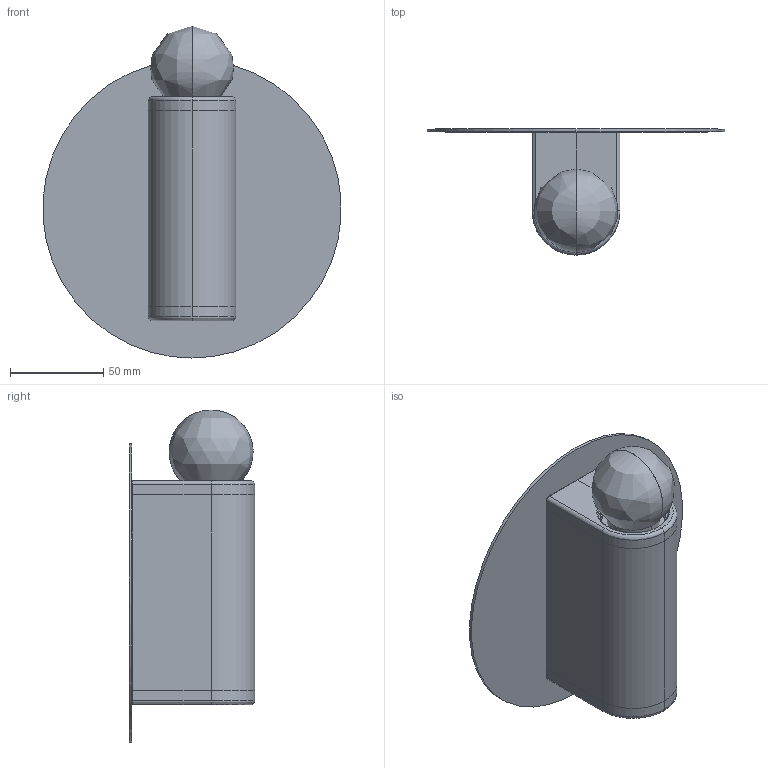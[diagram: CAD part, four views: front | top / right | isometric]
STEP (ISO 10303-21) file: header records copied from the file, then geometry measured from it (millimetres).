
FILE_DESCRIPTION(/* description */ (''),/* implementation_level */ '2;1');
FILE_NAME(/* name */ 'MA_White Porcelain Series D3_120V_2017',/* time_stamp */ '2020-12-02T12:03:51+00:00',/* author */ (''),/* organization */ (''),/* preprocessor_version */ 'ST-DEVELOPER v15',/* originating_system */ '',/* authorisation */ '');
FILE_SCHEMA (('AUTOMOTIVE_DESIGN'));
Length unit declared in the file: millimetre
Products named in the file (1): Document
Bounding box: 159.68 x 67.5 x 177.98 mm (x, y, z)
Volume: 30220.4 mm3; surface area: 85254.1 mm2
Topology: 1 solids, 8 shells, 125 faces, 395 edges, 224 vertices
Faces by surface type: bspline 112, plane 13
Entity records: 6329 total; most frequent: CARTESIAN_POINT 4631, ORIENTED_EDGE 576, EDGE_CURVE 388, VERTEX_POINT 220, ADVANCED_FACE 125, FACE_OUTER_BOUND 125, EDGE_LOOP 125, B_SPLINE_CURVE_WITH_KNOTS 37
